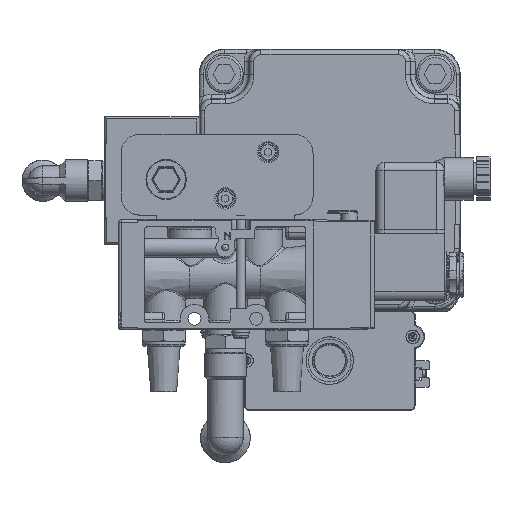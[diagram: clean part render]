
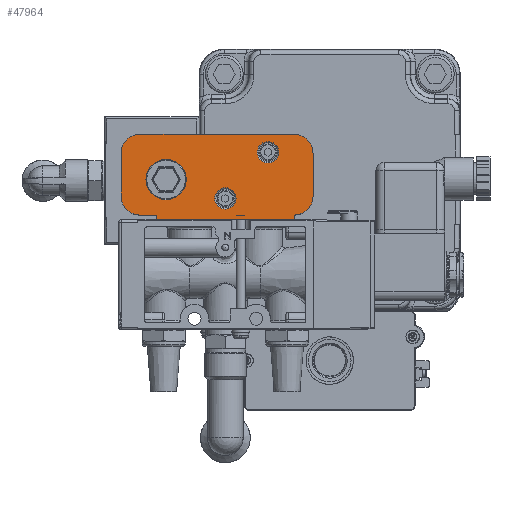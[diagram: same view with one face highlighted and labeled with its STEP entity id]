
A CAD part, top view. The second image highlights one B-rep face of the part: STEP entity #47964.
In plain terms, the highlighted planar face has unit normal (0, 0, 1).
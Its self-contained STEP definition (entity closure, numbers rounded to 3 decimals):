
#2388=LINE('',#75351,#4973);
#2442=LINE('',#75522,#5027);
#2444=LINE('',#75526,#5029);
#2448=LINE('',#75535,#5033);
#2451=LINE('',#75543,#5036);
#2454=LINE('',#75551,#5039);
#2458=LINE('',#75560,#5043);
#4973=VECTOR('',#57719,1000.);
#5027=VECTOR('',#57885,1000.);
#5029=VECTOR('',#57889,1000.);
#5033=VECTOR('',#57899,1000.);
#5036=VECTOR('',#57908,1000.);
#5039=VECTOR('',#57917,1000.);
#5043=VECTOR('',#57927,1000.);
#7252=CIRCLE('',#50877,4.5);
#7253=CIRCLE('',#50879,4.5);
#7254=CIRCLE('',#50883,8.);
#7255=CIRCLE('',#50886,8.);
#7256=CIRCLE('',#50889,8.);
#7257=CIRCLE('',#50892,8.);
#7260=CIRCLE('',#50899,8.5);
#13432=ORIENTED_EDGE('',*,*,#20254,.T.);
#13433=ORIENTED_EDGE('',*,*,#20255,.T.);
#13434=ORIENTED_EDGE('',*,*,#20280,.T.);
#13435=ORIENTED_EDGE('',*,*,#20181,.T.);
#13436=ORIENTED_EDGE('',*,*,#20277,.F.);
#13437=ORIENTED_EDGE('',*,*,#20274,.T.);
#13438=ORIENTED_EDGE('',*,*,#20272,.F.);
#13439=ORIENTED_EDGE('',*,*,#20270,.T.);
#13440=ORIENTED_EDGE('',*,*,#20268,.T.);
#13441=ORIENTED_EDGE('',*,*,#20266,.T.);
#13442=ORIENTED_EDGE('',*,*,#20264,.T.);
#13443=ORIENTED_EDGE('',*,*,#20262,.T.);
#13444=ORIENTED_EDGE('',*,*,#20259,.F.);
#13445=ORIENTED_EDGE('',*,*,#20257,.T.);
#20181=EDGE_CURVE('',#24013,#24019,#2388,.T.);
#20254=EDGE_CURVE('',#24079,#24079,#7252,.T.);
#20255=EDGE_CURVE('',#24080,#24080,#7253,.T.);
#20257=EDGE_CURVE('',#24081,#24013,#2442,.T.);
#20259=EDGE_CURVE('',#24081,#24082,#2444,.T.);
#20262=EDGE_CURVE('',#24083,#24082,#7254,.T.);
#20264=EDGE_CURVE('',#24084,#24083,#2448,.T.);
#20266=EDGE_CURVE('',#24085,#24084,#7255,.T.);
#20268=EDGE_CURVE('',#24086,#24085,#2451,.T.);
#20270=EDGE_CURVE('',#24087,#24086,#7256,.T.);
#20272=EDGE_CURVE('',#24087,#24088,#2454,.T.);
#20274=EDGE_CURVE('',#24089,#24088,#7257,.T.);
#20277=EDGE_CURVE('',#24089,#24019,#2458,.T.);
#20280=EDGE_CURVE('',#24092,#24092,#7260,.T.);
#24013=VERTEX_POINT('',#75338);
#24019=VERTEX_POINT('',#75350);
#24079=VERTEX_POINT('',#75516);
#24080=VERTEX_POINT('',#75519);
#24081=VERTEX_POINT('',#75523);
#24082=VERTEX_POINT('',#75527);
#24083=VERTEX_POINT('',#75532);
#24084=VERTEX_POINT('',#75536);
#24085=VERTEX_POINT('',#75540);
#24086=VERTEX_POINT('',#75544);
#24087=VERTEX_POINT('',#75548);
#24088=VERTEX_POINT('',#75552);
#24089=VERTEX_POINT('',#75556);
#24092=VERTEX_POINT('',#75569);
#27576=EDGE_LOOP('',(#13432));
#27577=EDGE_LOOP('',(#13433));
#27578=EDGE_LOOP('',(#13434));
#27579=EDGE_LOOP('',(#13435,#13436,#13437,#13438,#13439,#13440,#13441,#13442,
#13443,#13444,#13445));
#30102=FACE_BOUND('',#27576,.T.);
#30103=FACE_BOUND('',#27577,.T.);
#30104=FACE_BOUND('',#27578,.T.);
#30105=FACE_BOUND('',#27579,.T.);
#31677=PLANE('',#50898);
#47964=ADVANCED_FACE('',(#30102,#30103,#30104,#30105),#31677,.F.);
#50877=AXIS2_PLACEMENT_3D('',#75515,#57876,#57877);
#50879=AXIS2_PLACEMENT_3D('',#75518,#57880,#57881);
#50883=AXIS2_PLACEMENT_3D('',#75531,#57894,#57895);
#50886=AXIS2_PLACEMENT_3D('',#75539,#57903,#57904);
#50889=AXIS2_PLACEMENT_3D('',#75547,#57912,#57913);
#50892=AXIS2_PLACEMENT_3D('',#75555,#57921,#57922);
#50898=AXIS2_PLACEMENT_3D('',#75567,#57936,#57937);
#50899=AXIS2_PLACEMENT_3D('',#75568,#57938,#57939);
#57719=DIRECTION('',(1.,0.,0.));
#57876=DIRECTION('',(0.,0.,-1.));
#57877=DIRECTION('',(1.,0.,0.));
#57880=DIRECTION('',(0.,0.,-1.));
#57881=DIRECTION('',(1.,0.,0.));
#57885=DIRECTION('',(0.,-1.,0.));
#57889=DIRECTION('',(-1.,0.,0.));
#57894=DIRECTION('',(0.,0.,1.));
#57895=DIRECTION('',(1.,0.,0.));
#57899=DIRECTION('',(0.,-1.,0.));
#57903=DIRECTION('',(0.,0.,1.));
#57904=DIRECTION('',(1.,0.,0.));
#57908=DIRECTION('',(-1.,0.,0.));
#57912=DIRECTION('',(0.,0.,1.));
#57913=DIRECTION('',(1.,0.,0.));
#57917=DIRECTION('',(0.,-1.,0.));
#57921=DIRECTION('',(0.,0.,1.));
#57922=DIRECTION('',(1.,0.,0.));
#57927=DIRECTION('',(0.,-1.,0.));
#57936=DIRECTION('',(0.,0.,-1.));
#57937=DIRECTION('',(-1.,0.,0.));
#57938=DIRECTION('',(0.,0.,-1.));
#57939=DIRECTION('',(1.,0.,0.));
#75338=CARTESIAN_POINT('',(-73.,-17.,213.));
#75350=CARTESIAN_POINT('',(-15.,-17.,213.));
#75351=CARTESIAN_POINT('',(-73.,-17.,213.));
#75515=CARTESIAN_POINT('',(-26.,11.5,213.));
#75516=CARTESIAN_POINT('',(-21.5,11.5,213.));
#75518=CARTESIAN_POINT('',(-44.,-8.,213.));
#75519=CARTESIAN_POINT('',(-39.5,-8.,213.));
#75522=CARTESIAN_POINT('',(-73.,-15.,213.));
#75523=CARTESIAN_POINT('',(-73.,-15.,213.));
#75526=CARTESIAN_POINT('',(-7.,-15.,213.));
#75527=CARTESIAN_POINT('',(-80.,-15.,213.));
#75531=CARTESIAN_POINT('',(-80.,-7.,213.));
#75532=CARTESIAN_POINT('',(-88.,-7.,213.));
#75535=CARTESIAN_POINT('',(-88.,19.,213.));
#75536=CARTESIAN_POINT('',(-88.,11.,213.));
#75539=CARTESIAN_POINT('',(-80.,11.,213.));
#75540=CARTESIAN_POINT('',(-80.,19.,213.));
#75543=CARTESIAN_POINT('',(-7.,19.,213.));
#75544=CARTESIAN_POINT('',(-15.,19.,213.));
#75547=CARTESIAN_POINT('',(-15.,11.,213.));
#75548=CARTESIAN_POINT('',(-7.,11.,213.));
#75551=CARTESIAN_POINT('',(-7.,19.,213.));
#75552=CARTESIAN_POINT('',(-7.,-7.,213.));
#75555=CARTESIAN_POINT('',(-15.,-7.,213.));
#75556=CARTESIAN_POINT('',(-15.,-15.,213.));
#75560=CARTESIAN_POINT('',(-15.,-15.,213.));
#75567=CARTESIAN_POINT('',(-73.,-15.,213.));
#75568=CARTESIAN_POINT('',(-69.,0.,213.));
#75569=CARTESIAN_POINT('',(-60.5,0.,213.));
